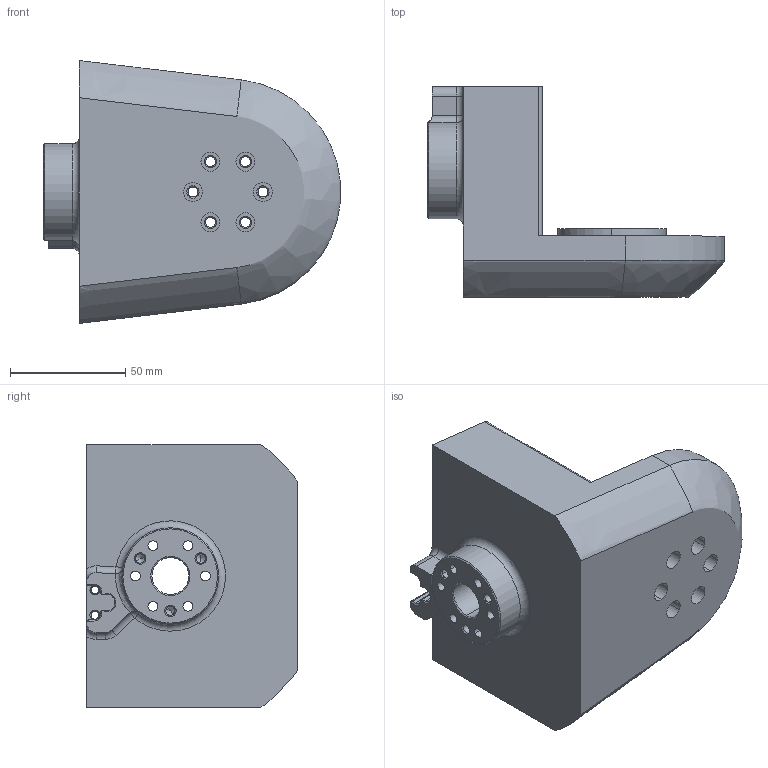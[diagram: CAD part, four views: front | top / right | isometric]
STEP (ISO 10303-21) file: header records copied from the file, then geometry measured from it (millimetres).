
FILE_DESCRIPTION((''),'2;1');
FILE_NAME('KD-C-101L_SHLDYOKEDRIVE_1','2025-07-12T12:55:42',('Administrator'),(''),'CREO PARAMETRIC BY PTC INC, 2022073','CREO PARAMETRIC BY PTC INC, 2022073','');
FILE_SCHEMA(('CONFIG_CONTROL_DESIGN'));
Length unit declared in the file: millimetre
Products named in the file (1): KD-C-101L_SHLDYOKEDRIVE_1
Bounding box: 128.82 x 91.25 x 114 mm (x, y, z)
Volume: 165289.7 mm3; surface area: 79327.3 mm2
Topology: 1 solids, 1 shells, 357 faces, 1044 edges, 690 vertices
Faces by surface type: cylinder 180, cone 84, plane 72, bspline 6, torus 5, extrusion 5, revolution 3, sphere 2
Entity records: 13826 total; most frequent: CARTESIAN_POINT 3983, DIRECTION 2189, ORIENTED_EDGE 2040, EDGE_CURVE 1020, AXIS2_PLACEMENT_3D 895, VERTEX_POINT 690, CIRCLE 552, EDGE_LOOP 412
